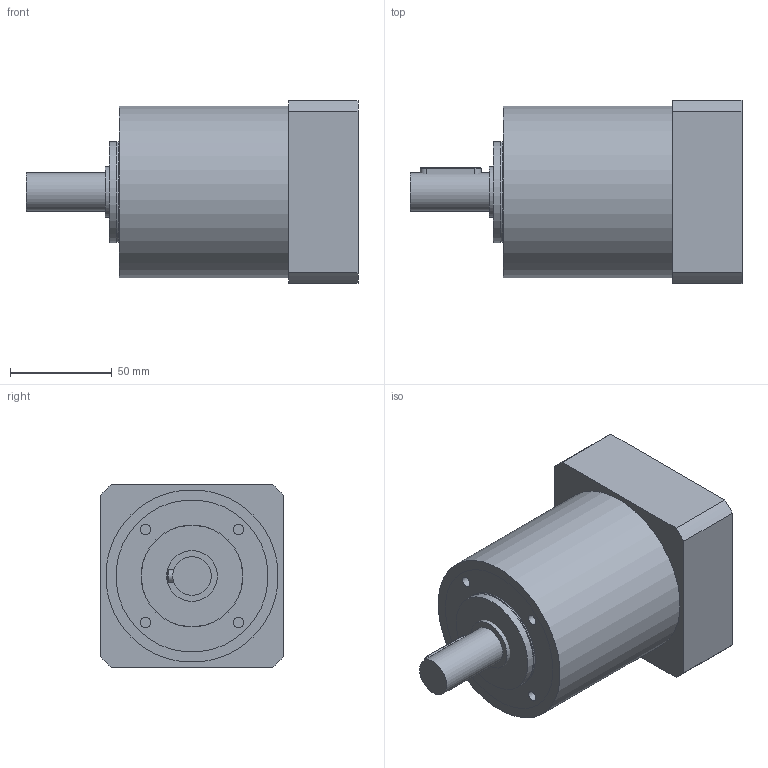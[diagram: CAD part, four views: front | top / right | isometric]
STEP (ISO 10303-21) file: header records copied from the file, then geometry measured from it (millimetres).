
FILE_DESCRIPTION(/* description */ (''),/* implementation_level */ '2;1');
FILE_NAME(/* name */ 'E00018062471MP270309104421_step203.stp',/* time_stamp */ '2009-03-27T10:45:47+01:00',/* author */ (''),/* organization */ (''),/* preprocessor_version */ 'ST-DEVELOPER v11',/* originating_system */ 'UGS - NX 5.0',/* authorisation */ '');
FILE_SCHEMA (('CONFIG_CONTROL_DESIGN'));
Length unit declared in the file: millimetre
Products named in the file (1): E00018062471MP270309104421_M
Bounding box: 163.5 x 90 x 90 mm (x, y, z)
Volume: 915994.5 mm3; surface area: 120903 mm2
Topology: 8 solids, 8 shells, 100 faces, 211 edges, 139 vertices
Faces by surface type: plane 44, cylinder 40, cone 13, torus 3
Full cylindrical faces by diameter (mm): 5.188 x10, 6.2 x1, 6.5 x1, 10.5 x1, 13.75 x1, 14 x1, 19 x2, 25 x2, 50 x1, 52 x1, 63.9 x1, 67.96 x1, 68 x1, 70.9 x1, 74.95 x1, 75 x2, 80 x1, 85 x1
Entity records: 2503 total; most frequent: CARTESIAN_POINT 473, DIRECTION 430, ORIENTED_EDGE 292, AXIS2_PLACEMENT_3D 186, EDGE_LOOP 164, EDGE_CURVE 146, FACE_BOUND 134, VERTEX_POINT 124
